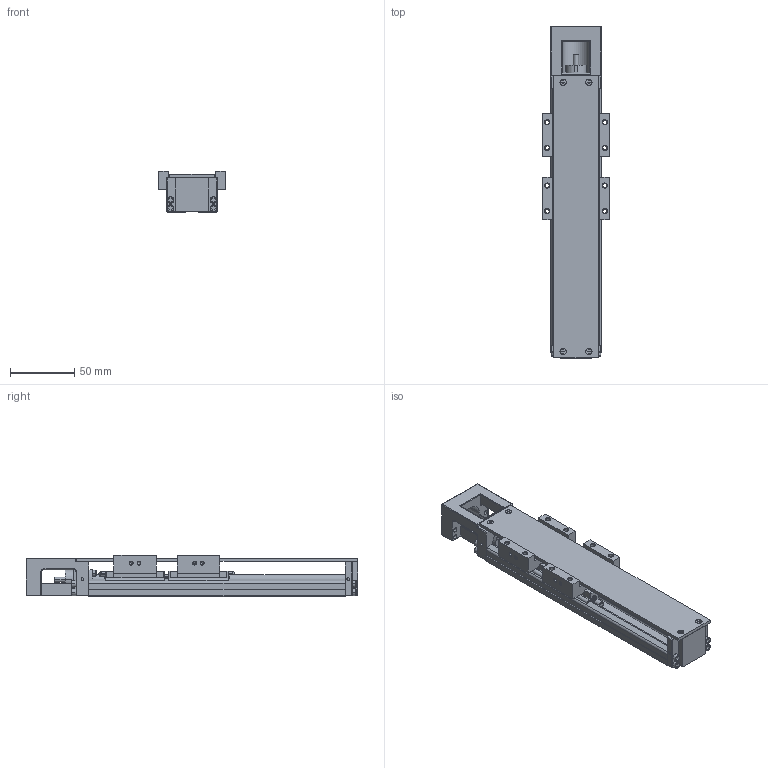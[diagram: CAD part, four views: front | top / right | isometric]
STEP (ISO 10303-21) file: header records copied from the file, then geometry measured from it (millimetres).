
FILE_DESCRIPTION(('no description'),'unknown implementation level');
FILE_NAME('KK4001P200A2F0C00_FILE_7.stp',' ',('HIWIN GmbH'),('CADClick - KiM GmbH - www.kimweb.de'),'unknown preprocess','ACIS','unknown authorization');
FILE_SCHEMA(('automotive_design'));
Length unit declared in the file: millimetre
Products named in the file (3): KK4001P200A2F0C00_FILE_1; KK40_FILE; KK4001P200A2F0C00_FILE
Bounding box: 52 x 259 x 32 mm (x, y, z)
Volume: 184459 mm3; surface area: 87986.5 mm2
Topology: 3 solids, 27 shells, 1396 faces, 3624 edges, 2298 vertices
Faces by surface type: plane 820, cylinder 424, cone 88, torus 56, sphere 8
Entity records: 84740 total; most frequent: CARTESIAN_POINT 9093, DIRECTION 7390, STYLED_ITEM 7301, PRESENTATION_STYLE_ASSIGNMENT 7301, COLOUR_RGB 7301, ORIENTED_EDGE 7208, EDGE_CURVE 3604, CURVE_STYLE 3604
